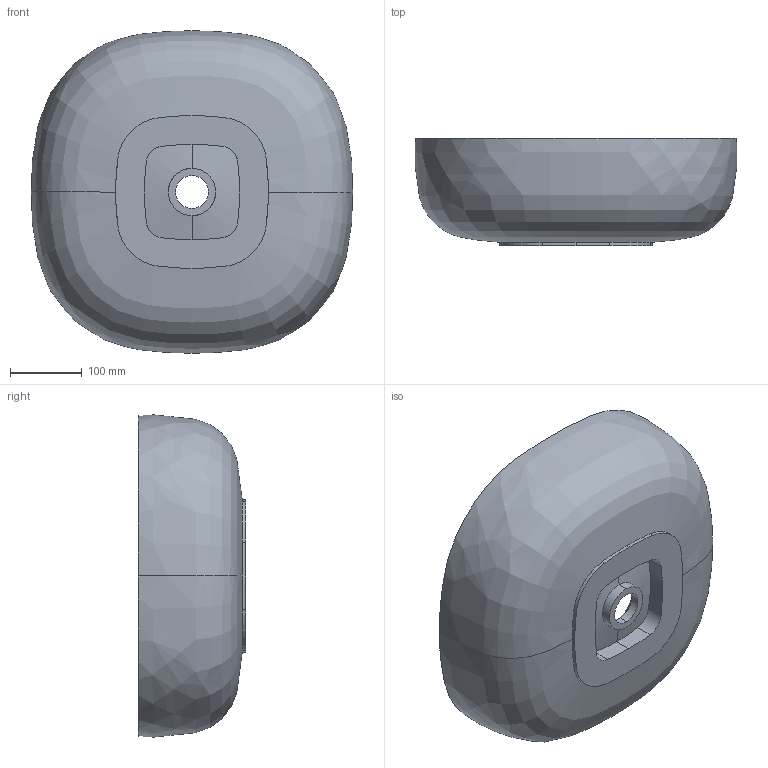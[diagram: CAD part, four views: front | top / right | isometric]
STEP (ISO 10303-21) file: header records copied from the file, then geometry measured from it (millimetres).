
FILE_DESCRIPTION (( 'STEP AP203' ), '1' );
FILE_NAME ('ELLA045450Z0.STEP', '2019-09-13T09:13:57', ( '' ), ( '' ), 'SwSTEP 2.0', 'SolidWorks 2019', '' );
FILE_SCHEMA (( 'CONFIG_CONTROL_DESIGN' ));
Length unit declared in the file: millimetre
Products named in the file (1): ELLA045450Z0
Bounding box: 448.45 x 150 x 450 mm (x, y, z)
Volume: 8213560.1 mm3; surface area: 578824.3 mm2
Topology: 1 solids, 1 shells, 34 faces, 101 edges, 71 vertices
Faces by surface type: cylinder 22, bspline 6, plane 4, cone 2
Entity records: 8587 total; most frequent: CARTESIAN_POINT 7575, ORIENTED_EDGE 202, DIRECTION 200, EDGE_CURVE 101, AXIS2_PLACEMENT_3D 88, VERTEX_POINT 71, CIRCLE 59, EDGE_LOOP 38
